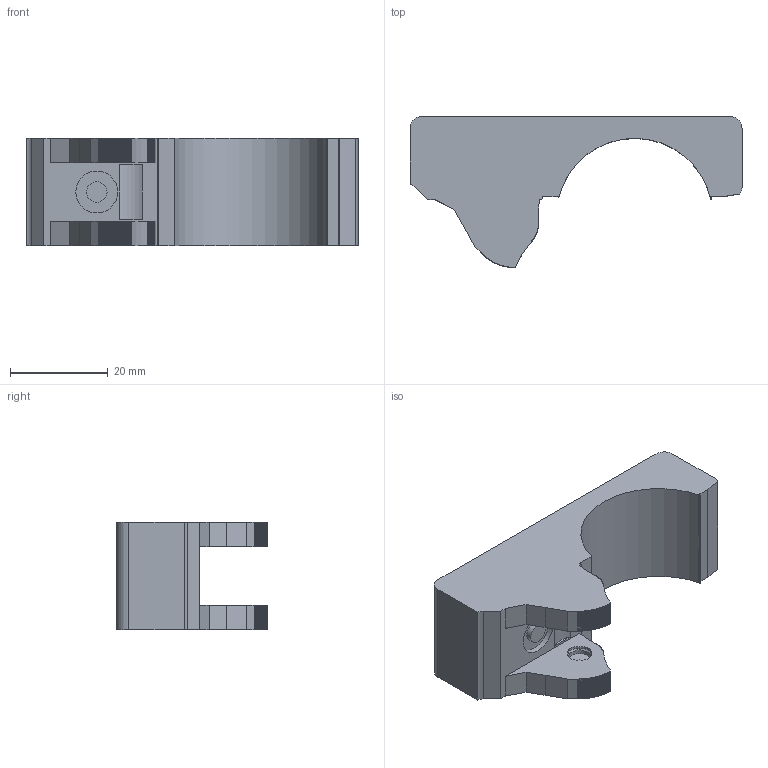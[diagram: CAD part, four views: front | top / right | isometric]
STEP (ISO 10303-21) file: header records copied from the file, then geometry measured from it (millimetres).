
FILE_DESCRIPTION(('Open CASCADE Model'),'2;1');
FILE_NAME('Open CASCADE Shape Model','2026-11-18T22:15:56',('Author'),( 'Open CASCADE'),'Open CASCADE STEP processor 7.8','Open CASCADE 7.8' ,'Unknown');
FILE_SCHEMA(('AUTOMOTIVE_DESIGN { 1 0 10303 214 1 1 1 1 }'));
Length unit declared in the file: millimetre
Products named in the file (1): Open CASCADE STEP translator 7.8 1
Bounding box: 68 x 30.95 x 22 mm (x, y, z)
Volume: 20357.6 mm3; surface area: 6593.6 mm2
Topology: 1 solids, 1 shells, 548 faces, 1619 edges, 1078 vertices
Faces by surface type: plane 272, cylinder 268, cone 8
Full cylindrical faces by diameter (mm): 4.2 x1, 4.5 x2, 8.6 x1
Entity records: 39516 total; most frequent: CARTESIAN_POINT 10015, DIRECTION 4816, ORIENTED_EDGE 3238, PCURVE 3238, DEFINITIONAL_REPRESENTATION 3238, LINE 2239, VECTOR 2239, EDGE_CURVE 1619
